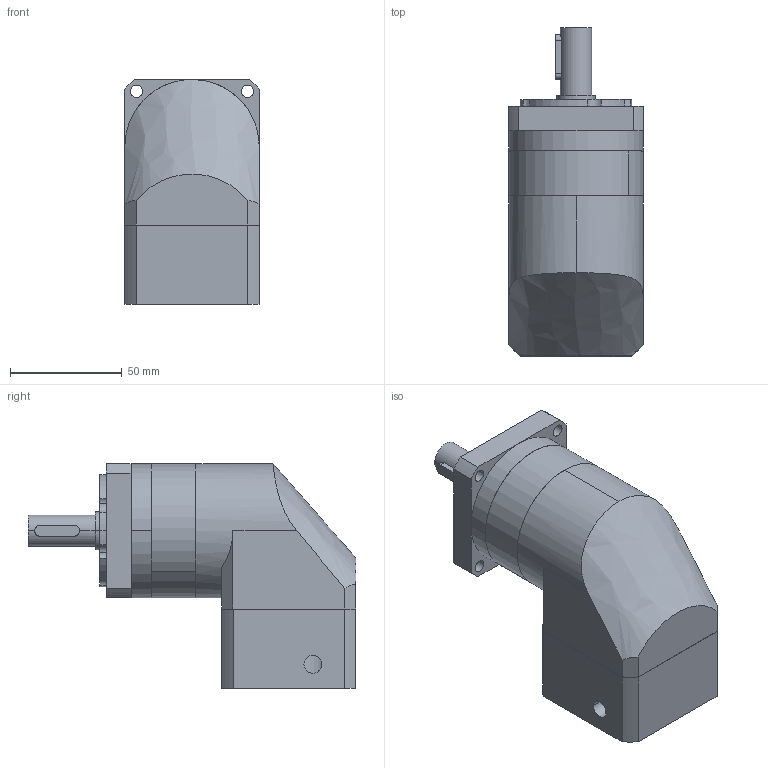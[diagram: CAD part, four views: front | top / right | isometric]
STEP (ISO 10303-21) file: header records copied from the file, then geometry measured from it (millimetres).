
FILE_DESCRIPTION (( 'STEP AP214' ), '1' );
FILE_NAME ('PFR-060-L1-S2-P2 14-50-70-M4.STEP', '2023-08-26T05:30:10', ( '微软用户' ), ( '微软中国' ), 'SwSTEP 2.0', 'SolidWorks 2018', '' );
FILE_SCHEMA (( 'AUTOMOTIVE_DESIGN' ));
Length unit declared in the file: millimetre
Products named in the file (9): PFR060-眊极_揤翉; 囀鞠褒蹟佪-M5℅16; PFR060 奻屳唳_D1-70 D2-5.5 D3-14 D4-17 D5-50 L1-30 L2-35 L3-3 A1-60 S1-3 S2-20 S3-5 S4-18 B-5 H-16 C-M5 梓袧; PFR060-蟀諉啣; 双列角接触球轴承 5203_2; PFR060 κｳﾝﾈｦ_ﾒｻｼｶﾄﾚｳﾝﾈｦ; PFR060-薊粣; PFR-060-L1-S2-P2 14-50-70-M4; 邧埴瑩  5x5x20
Assembly tree (8 placements, depth 2):
  PFR-060-L1-S2-P2 14-50-70-M4
    PFR060 奻屳唳_D1-70 D2-5.5 D3-14 D4-17 D5-50 L1-30 L2-35 L3-3 A1-60 S1-3 S2-20 S3-5 S4-18 B-5 H-16 C-M5 梓袧
    PFR060-薊粣
    双列角接触球轴承 5203_2
    PFR060-蟀諉啣
    囀鞠褒蹟佪-M5℅16
    邧埴瑩  5x5x20
    PFR060-眊极_揤翉
    PFR060 κｳﾝﾈｦ_ﾒｻｼｶﾄﾚｳﾝﾈｦ
Bounding box: 60 x 146.5 x 100.5 mm (x, y, z)
Volume: 412898.7 mm3; surface area: 92899 mm2
Topology: 8 solids, 8 shells, 503 faces, 1385 edges, 896 vertices
Faces by surface type: cylinder 182, plane 154, bspline 137, cone 30
Entity records: 19833 total; most frequent: CARTESIAN_POINT 7270, ORIENTED_EDGE 2734, DIRECTION 2394, EDGE_CURVE 1367, AXIS2_PLACEMENT_3D 974, VERTEX_POINT 896, CIRCLE 597, EDGE_LOOP 587
